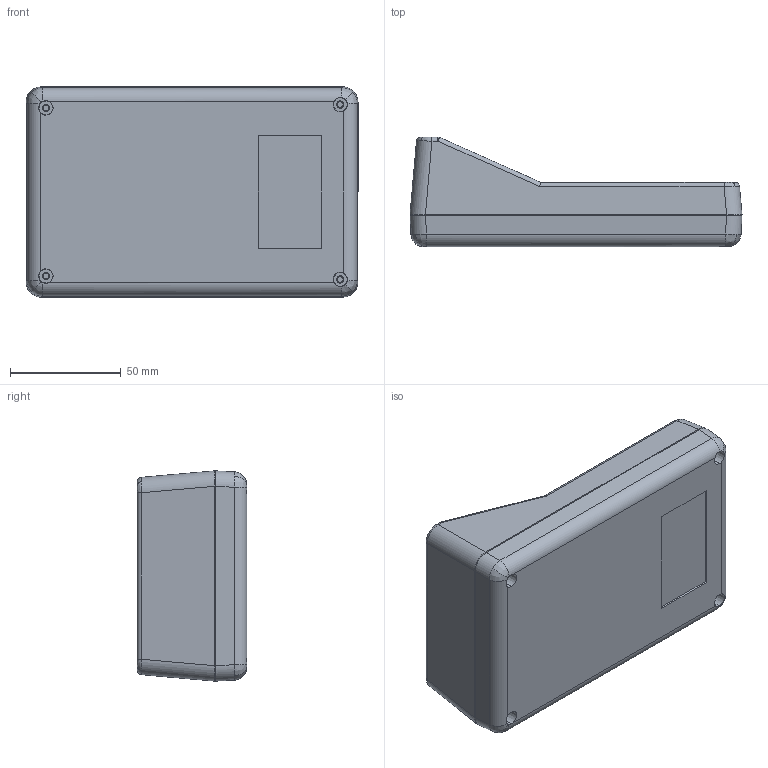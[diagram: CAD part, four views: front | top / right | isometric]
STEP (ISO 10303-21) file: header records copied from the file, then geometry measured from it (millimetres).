
FILE_DESCRIPTION (( 'STEP AP203' ), '1' );
FILE_NAME ('PT090-C.STEP', '2020-12-07T14:30:07', ( '' ), ( '' ), 'SwSTEP 2.0', 'SolidWorks 2020', '' );
FILE_SCHEMA (( 'CONFIG_CONTROL_DESIGN' ));
Length unit declared in the file: millimetre
Products named in the file (3): PT090-C
Assembly tree (2 placements, depth 2):
  PT090-C
    PT090-C
    PT090-C
Bounding box: 150 x 49.5 x 95 mm (x, y, z)
Volume: 119229.8 mm3; surface area: 89175.7 mm2
Topology: 2 solids, 2 shells, 285 faces, 707 edges, 464 vertices
Faces by surface type: plane 110, cylinder 69, bspline 60, cone 44, sphere 2
Entity records: 10376 total; most frequent: CARTESIAN_POINT 3675, ORIENTED_EDGE 1410, DIRECTION 1213, EDGE_CURVE 705, VERTEX_POINT 464, AXIS2_PLACEMENT_3D 450, EDGE_LOOP 335, LINE 313
